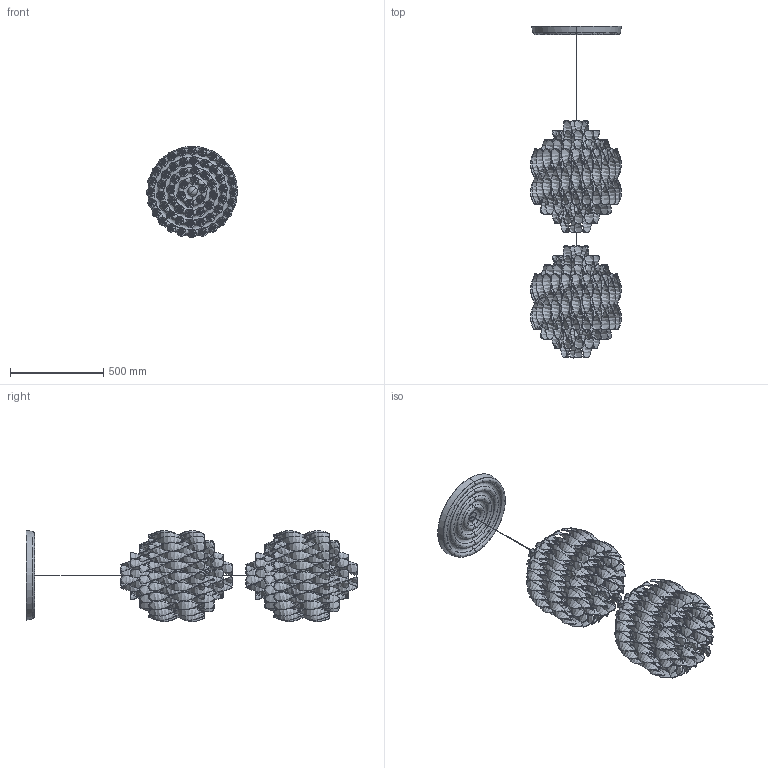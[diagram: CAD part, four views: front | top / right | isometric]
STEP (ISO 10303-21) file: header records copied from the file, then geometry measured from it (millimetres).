
FILE_DESCRIPTION (( 'STEP AP214' ), '1' );
FILE_NAME ('SPIRAL SP2 Assembly.STEP', '2013-01-08T20:06:59', ( '' ), ( '' ), 'SwSTEP 2.0', 'SolidWorks 2013', '' );
FILE_SCHEMA (( 'AUTOMOTIVE_DESIGN' ));
Length unit declared in the file: millimetre
Products named in the file (7): Spiral1 (1079); Baldakin (1079); SPIRAL SP2 Assembly; bulb dummy; Spiral4 (1079); Spiral3 (1079); Spiral2 (1079)
Assembly tree (123 placements, depth 2):
  SPIRAL SP2 Assembly
    Baldakin (1079)
    Spiral1 (1079)  x48
    Spiral2 (1079)  x36
    Spiral3 (1079)  x24
    Spiral4 (1079)  x12
    bulb dummy  x2
Bounding box: 486.9 x 1776.52 x 488.08 mm (x, y, z)
Volume: 5289561.7 mm3; surface area: 5243732.7 mm2
Topology: 125 solids, 125 shells, 1304 faces, 3148 edges, 2086 vertices
Faces by surface type: cylinder 728, bspline 512, plane 54, cone 6, sphere 4
Entity records: 21441 total; most frequent: CARTESIAN_POINT 13448, ORIENTED_EDGE 1106, DIRECTION 907, EDGE_CURVE 553, AXIS2_PLACEMENT_3D 379, VERTEX_POINT 356, EDGE_LOOP 335, B_SPLINE_CURVE_WITH_KNOTS 294
